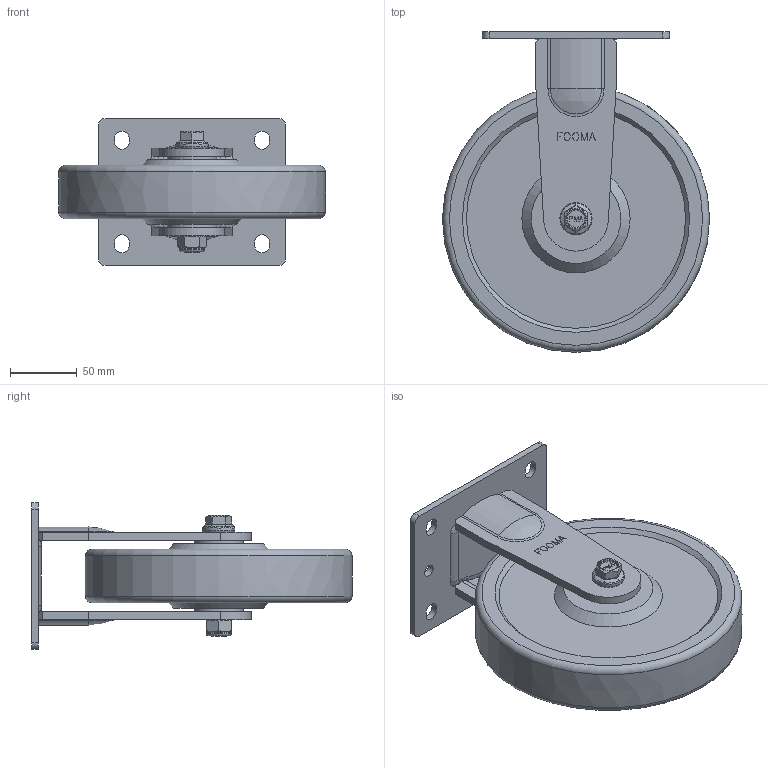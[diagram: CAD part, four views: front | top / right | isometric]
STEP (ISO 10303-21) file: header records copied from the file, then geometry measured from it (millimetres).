
FILE_DESCRIPTION(/* description */ (''),/* implementation_level */ '2;1');
FILE_NAME(/* name */ '\\192.168.10.38\지덕공유\1.기술연구소\2.연구개발 진행중\28.PLM-SERIES_MEDIUM\제품설계\홈페이지용 도면\PLM-200-ARF-MCD-PEU.stp',/* time_stamp */ '2022-03-04T18:34:32+09:00',/* author */ ('admin'),/* organization */ (''),/* preprocessor_version */ 'ST-DEVELOPER v18.1',/* originating_system */ 'Autodesk Inventor 2021',/* authorisation */ '');
FILE_SCHEMA (('AUTOMOTIVE_DESIGN { 1 0 10303 214 3 1 1 }'));
Length unit declared in the file: millimetre
Products named in the file (1): PLM-200-ARF-MCD-PEU
Bounding box: 199.97 x 240 x 110 mm (x, y, z)
Volume: 1365716.8 mm3; surface area: 156663 mm2
Topology: 1 solids, 1 shells, 711 faces, 1962 edges, 1301 vertices
Faces by surface type: plane 598, cylinder 45, bspline 27, torus 23, cone 14, sphere 4
Full cylindrical faces by diameter (mm): 9 x2, 14 x1, 18.5 x1, 24 x1, 37 x2
Entity records: 23520 total; most frequent: CARTESIAN_POINT 5361, ORIENTED_EDGE 3924, DIRECTION 3457, EDGE_CURVE 1962, LINE 1689, VECTOR 1689, VERTEX_POINT 1301, AXIS2_PLACEMENT_3D 884
